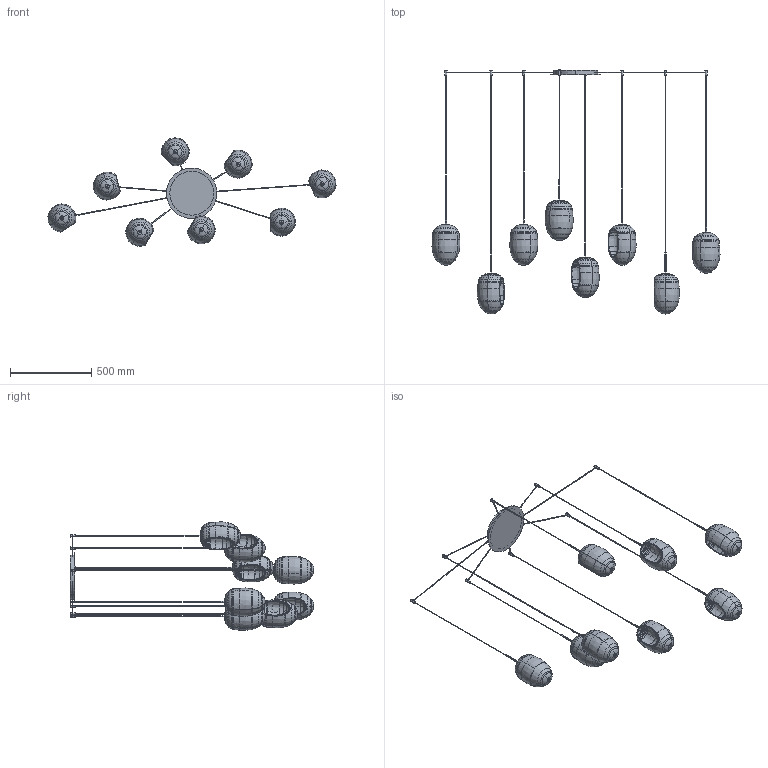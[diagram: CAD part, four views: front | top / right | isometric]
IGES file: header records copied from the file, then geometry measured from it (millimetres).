
Start section: SolidWorks IGES file using analytic representation for surfaces
Global section: file name: Y:\eforma\TECNICO\SOLIDWORKS\E-FORMA\09-LAMPADE\FOS\02 parts\FOS08_8 sospensione.IGS; native system: SolidWorks 2022; preprocessor: SolidWorks 2022; author: eforma.tech; date: 250519.091116; units: millimetre
Bounding box: 1772.71 x 1500.54 x 666.58 mm (x, y, z)
Volume: 5022251.9 mm3; surface area: 2816399.4 mm2
Topology: 81 solids, 81 shells, 1854 faces, 4439 edges, 2732 vertices
Faces by surface type: revolution 1195, plane 483, bspline 176
